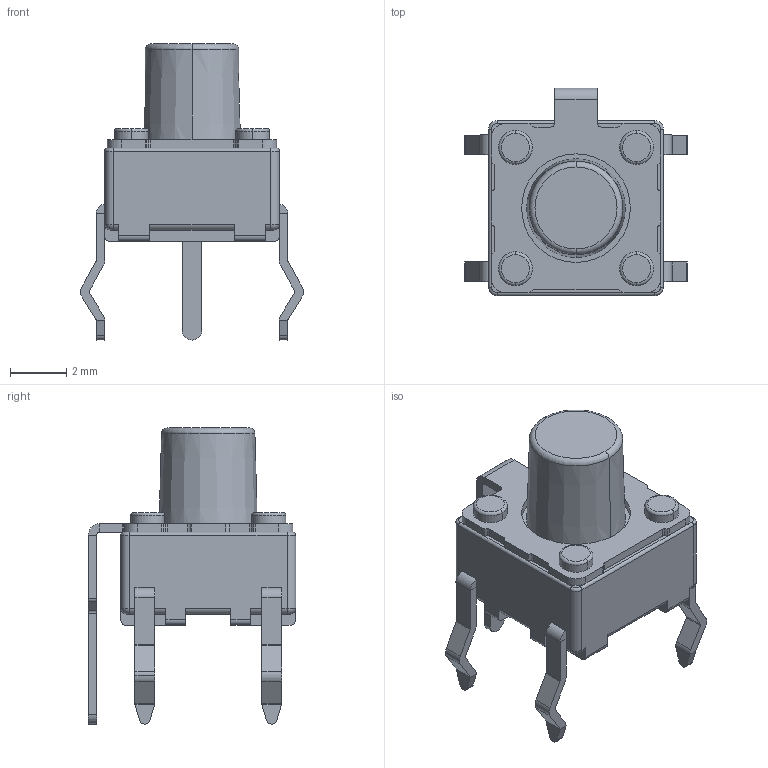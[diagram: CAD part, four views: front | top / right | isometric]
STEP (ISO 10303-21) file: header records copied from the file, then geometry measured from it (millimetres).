
FILE_DESCRIPTION (( 'STEP AP214' ), '1' );
FILE_NAME ('SKHHQV.STEP', '2012-09-24T07:24:46', ( ' ' ), ( '' ), 'SwSTEP 2.0', 'SolidWorks 2010', '' );
FILE_SCHEMA (( 'AUTOMOTIVE_DESIGN' ));
Length unit declared in the file: millimetre
Products named in the file (1): SKHHQV
Bounding box: 7.9 x 7.35 x 10.5 mm (x, y, z)
Volume: 163.6 mm3; surface area: 286.6 mm2
Topology: 1 solids, 5 shells, 316 faces, 812 edges, 512 vertices
Faces by surface type: plane 161, cylinder 135, torus 18, cone 2
Entity records: 12346 total; most frequent: DIRECTION 1750, CARTESIAN_POINT 1641, ORIENTED_EDGE 1624, EDGE_CURVE 812, AXIS2_PLACEMENT_3D 621, VERTEX_POINT 512, VECTOR 508, LINE 508
